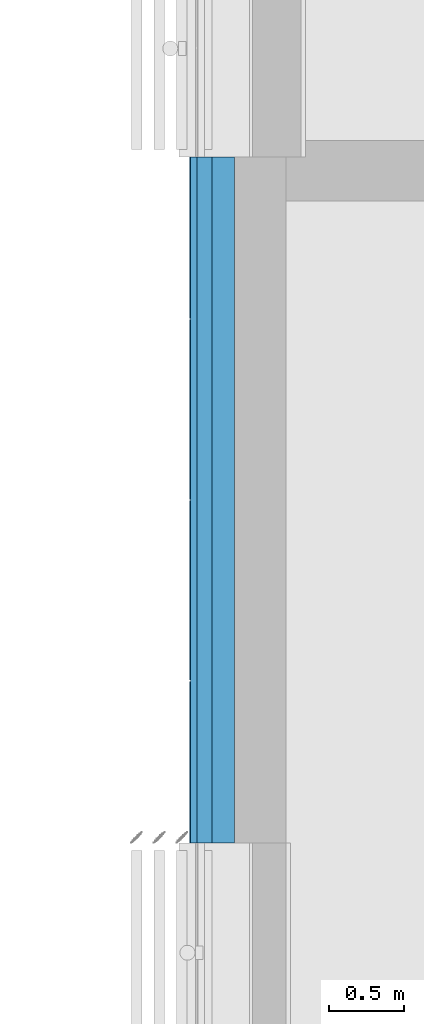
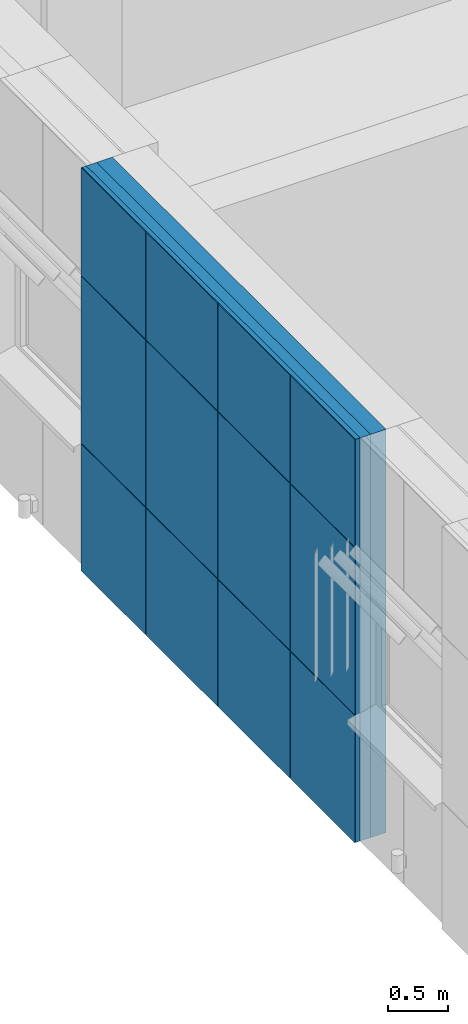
# One storey, part 128 of 418: 4 building element parts, 6 openings, 1 element without a shape of its own.
"""IFC2X3 building model written with IfcOpenShell, lengths in millimetres."""

from ifc_helpers import new_model, entity, si_unit, converted_unit, derived_unit, money_unit, direction, frame, origin_with_axes, origin_2d_with_axis, place, context, subcontext, project, spatial, polyline, rectangle, outline, extrude, boolean, faceted_brep, material, type_object, element, aggregate, save


model = new_model("IFC2X3")

# Units and contexts
model_context = context("Model", 3, precision=0.01, world=origin_with_axes(), true_north=direction((0.0, 1.0)))
body_context = subcontext(model_context, "Body", "Model", "MODEL_VIEW")
ifc_project = project(units=[si_unit("LENGTHUNIT", "METRE", prefix="MILLI"), si_unit("AREAUNIT", "SQUARE_METRE"), si_unit("VOLUMEUNIT", "CUBIC_METRE"), converted_unit("PLANEANGLEUNIT", "DEGREE", entity("IfcPlaneAngleMeasure", 0.0174532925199), si_unit("PLANEANGLEUNIT", "RADIAN"), dimensions=[0, 0, 0, 0, 0, 0, 0]), si_unit("SOLIDANGLEUNIT", "STERADIAN"), money_unit("EUR"), converted_unit("TIMEUNIT", "Year", entity("IfcTimeMeasure", 31556926.0), si_unit("TIMEUNIT", "SECOND"), dimensions=[0, 0, 1, 0, 0, 0, 0]), si_unit("MASSUNIT", "GRAM", prefix="KILO"), si_unit("THERMODYNAMICTEMPERATUREUNIT", "DEGREE_CELSIUS"), si_unit("LUMINOUSINTENSITYUNIT", "LUMEN"), si_unit("ENERGYUNIT", "JOULE", prefix="MEGA"), derived_unit("THERMALCONDUCTANCEUNIT", [(si_unit("POWERUNIT", "WATT"), 1), (si_unit("LENGTHUNIT", "METRE"), -1), (si_unit("THERMODYNAMICTEMPERATUREUNIT", "KELVIN"), -1)]), derived_unit("SPECIFICHEATCAPACITYUNIT", [(si_unit("ENERGYUNIT", "JOULE"), 1), (si_unit("MASSUNIT", "GRAM", prefix="KILO"), -1), (si_unit("THERMODYNAMICTEMPERATUREUNIT", "KELVIN"), -1)]), derived_unit("MASSDENSITYUNIT", [(si_unit("MASSUNIT", "GRAM", prefix="KILO"), 1), (si_unit("VOLUMEUNIT", "CUBIC_METRE"), -1)])], contexts=[model_context])

# Site, building, storey
site_placement = place(None, origin_with_axes())
site = spatial("IfcSite", under=ifc_project, at=site_placement, Name="Paldiski mnt 245/1, Tallinn, Harjumaa", CompositionType="COMPLEX")
building_placement = place(site_placement, origin_with_axes())
building = spatial("IfcBuilding", under=site, at=building_placement, Name="RKAS Hoone üldnimetus (kasutust iseloomustav) -> IFC Project Manager -> SOLIBRI", CompositionType="ELEMENT")
storey_placement = place(building_placement, origin_with_axes())
storey = spatial("IfcBuildingStorey", under=building, at=storey_placement, Name="Esimene korrus", CompositionType="ELEMENT", Elevation=0.0)

# Wall, openings, building element parts
wall_type = type_object("IfcWallType", Name="VS-03H_uued_kihid 300", PredefinedType="NOTDEFINED")
wall_placement = place(storey_placement, frame((-62730.0, 18129.8288003, 0.0), z_axis=(0.0, 0.0, 1.0), x_axis=(0.0, 1.0, 0.0)))
wall = element("IfcWall", 1, at=wall_placement, inside=storey, type_object=wall_type, Name="VS-03")
opening_1_placement = place(wall_placement, frame((4925.0, -1.06581410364e-10, 0.0), z_axis=(0.0, 0.0, 1.0), x_axis=(1.0, 0.0, 0.0)))
element("IfcOpeningElement", 2, at=opening_1_placement, cuts=wall, Name="Cembrit fassaadiplaadi vuuk", context=body_context, shape_type="SweptSolid", body=[
    extrude(outline(polyline([(-4.0, 0.0), (4.0, 0.0), (4.0, 4090.0), (-4.0, 4090.0), (-4.0, 0.0)])), frame((0.0, 292.0, 0.0), z_axis=(0.0, -1.0, 0.0), x_axis=(1.0, 0.0, 0.0)), (0.0, 0.0, -1.0), 308.0),
])
opening_2_placement = place(wall_placement, frame((3725.0, 0.0, 0.0), z_axis=(0.0, 0.0, 1.0), x_axis=(1.0, 0.0, 0.0)))
element("IfcOpeningElement", 3, at=opening_2_placement, cuts=wall, Name="Cembrit fassaadiplaadi vuuk", context=body_context, shape_type="SweptSolid", body=[
    extrude(outline(polyline([(-4.0, 0.0), (4.0, 0.0), (4.0, 4090.0), (-4.0, 4090.0), (-4.0, 0.0)])), frame((0.0, 292.0, 0.0), z_axis=(0.0, -1.0, 0.0), x_axis=(1.0, 0.0, 0.0)), (0.0, 0.0, -1.0), 308.0),
])
opening_3_placement = place(wall_placement, frame((2525.0, 0.0, 0.0), z_axis=(0.0, 0.0, 1.0), x_axis=(1.0, 0.0, 0.0)))
element("IfcOpeningElement", 4, at=opening_3_placement, cuts=wall, Name="Cembrit fassaadiplaadi vuuk", context=body_context, shape_type="SweptSolid", body=[
    extrude(outline(polyline([(-4.0, 0.0), (4.0, 0.0), (4.0, 4090.0), (-4.0, 4090.0), (-4.0, 0.0)])), frame((0.0, 292.0, 0.0), z_axis=(0.0, -1.0, 0.0), x_axis=(1.0, 0.0, 0.0)), (0.0, 0.0, -1.0), 308.0),
])
opening_4_placement = place(wall_placement, frame((3724.75113166, 0.0, 1290.0), z_axis=(0.0, 0.0, 1.0), x_axis=(1.0, 0.0, 0.0)))
element("IfcOpeningElement", 5, at=opening_4_placement, cuts=wall, Name="Cembrit fassaadiplaadi vuuk", context=body_context, shape_type="SweptSolid", body=[
    extrude(outline(polyline([(-2274.75113166, 0.0), (2274.75113166, 0.0), (2274.75113166, 8.0), (-2274.75113166, 8.0), (-2274.75113166, 0.0)])), frame((0.0, 292.0, 0.0), z_axis=(0.0, -1.0, 0.0), x_axis=(1.0, 0.0, 0.0)), (0.0, 0.0, -1.0), 308.0),
])
opening_5_placement = place(wall_placement, frame((3724.75113166, 0.0, 2990.0), z_axis=(0.0, 0.0, 1.0), x_axis=(1.0, 0.0, 0.0)))
element("IfcOpeningElement", 6, at=opening_5_placement, cuts=wall, Name="Cembrit fassaadiplaadi vuuk", context=body_context, shape_type="SweptSolid", body=[
    extrude(outline(polyline([(-2274.75113166, 0.0), (2274.75113166, 0.0), (2274.75113166, 8.0), (-2274.75113166, 8.0), (-2274.75113166, 0.0)])), frame((0.0, 292.0, 0.0), z_axis=(0.0, -1.0, 0.0), x_axis=(1.0, 0.0, 0.0)), (0.0, 0.0, -1.0), 308.0),
])
opening_6_placement = place(wall_placement, frame((-18129.8288003, -62730.0, 0.0), z_axis=(0.0, 0.0, 1.0), x_axis=(0.0, -1.0, 0.0)))
element("IfcOpeningElement", 7, at=opening_6_placement, cuts=wall, Name="AVA", ObjectType="OPENING", context=body_context, shape_type="SweptSolid", body=[
    extrude(rectangle(XDim=1450.0, YDim=4140.0001049, at=origin_2d_with_axis()), frame((-62730.0, 18854.8287244, 2019.99994755), z_axis=(1.0, 0.0, 0.0), x_axis=(0.0, 1.0, 0.0)), (0.0, 0.0, -1.0), 600.000000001),
])
ifc_material_1 = material(Name="Cembrit_C020")
building_element_part_1_placement = place(wall_placement, origin_with_axes())
building_element_part_1 = element("IfcBuildingElementPart", 8, at=building_element_part_1_placement, material=ifc_material_1, Name="Cembrit_C020", context=body_context, shape_type="CSG", body=[
    boolean("DIFFERENCE", boolean("DIFFERENCE", boolean("DIFFERENCE", boolean("DIFFERENCE", extrude(outline(polyline([(0.0, 292.0), (5999.50226332, 292.0), (5999.50226332, 300.0), (0.0, 300.0), (0.0, 292.0)])), origin_with_axes(), (0.0, 0.0, 1.0), 4090.0), faceted_brep([(672.519381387, 300.00961541, 170.0), (672.519381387, 300.00961541, 350.0), (769.48093199, 300.00961541, 350.0), (769.48093199, 300.00961541, 170.0), (675.434642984, 292.0, 170.0), (675.434642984, 292.0, 350.0), (766.565670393, 292.0, 350.0), (766.565670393, 292.0, 170.0)], [[[0, 1, 2, 3]], [[4, 5, 1, 0]], [[5, 6, 2, 1]], [[6, 7, 3, 2]], [[7, 4, 0, 3]], [[4, 7, 6, 5]]])), faceted_brep([(675.434642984, 292.0, 170.0), (675.434642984, 292.0, 350.0), (766.565670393, 292.0, 350.0), (766.565670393, 292.0, 170.0), (675.511669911, 291.788370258, 170.0), (675.511669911, 291.788370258, 350.0), (679.886103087, 284.211629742, 350.0), (685.509765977, 277.509609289, 350.0), (692.21178643, 271.885946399, 350.0), (699.788526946, 267.511513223, 350.0), (708.009772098, 264.519224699, 350.0), (716.625723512, 263.0, 350.0), (721.000156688, 263.0, 350.0), (725.374589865, 263.0, 350.0), (733.990541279, 264.519224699, 350.0), (742.21178643, 267.511513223, 350.0), (749.788526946, 271.885946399, 350.0), (756.490547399, 277.509609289, 350.0), (762.114210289, 284.211629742, 350.0), (766.488643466, 291.788370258, 350.0), (766.488643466, 291.788370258, 170.0), (762.114210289, 284.211629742, 170.0), (756.490547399, 277.509609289, 170.0), (749.788526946, 271.885946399, 170.0), (742.21178643, 267.511513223, 170.0), (733.990541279, 264.519224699, 170.0), (725.374589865, 263.0, 170.0), (721.000156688, 263.0, 170.0), (716.625723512, 263.0, 170.0), (708.009772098, 264.519224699, 170.0), (699.788526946, 267.511513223, 170.0), (692.21178643, 271.885946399, 170.0), (685.509765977, 277.509609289, 170.0), (679.886103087, 284.211629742, 170.0)], [[[0, 1, 2, 3]], [[1, 0, 4, 5]], [[2, 1, 5, 6, 7, 8, 9, 10, 11, 12, 13, 14, 15, 16, 17, 18, 19]], [[3, 2, 19, 20]], [[0, 3, 20, 21, 22, 23, 24, 25, 26, 27, 28, 29, 30, 31, 32, 33, 4]], [[4, 33, 6, 5]], [[33, 32, 7, 6]], [[32, 31, 8, 7]], [[31, 30, 9, 8]], [[30, 29, 10, 9]], [[29, 28, 11, 10]], [[28, 27, 12, 11]], [[27, 26, 13, 12]], [[26, 25, 14, 13]], [[25, 24, 15, 14]], [[24, 23, 16, 15]], [[23, 22, 17, 16]], [[22, 21, 18, 17]], [[21, 20, 19, 18]]])), faceted_brep([(676.000156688, 250.0, 200.0), (766.000156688, 250.0, 200.0), (766.000156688, 250.0, 320.0), (676.000156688, 250.0, 320.0), (676.000156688, 260.0, 200.0), (766.000156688, 260.0, 200.0), (766.000156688, 260.0, 320.0), (676.000156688, 260.0, 320.0)], [[[0, 1, 2, 3]], [[1, 0, 4, 5]], [[2, 1, 5, 6]], [[3, 2, 6, 7]], [[0, 3, 7, 4]], [[5, 4, 7, 6]]])), faceted_brep([(676.000156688, 250.0, 200.0), (676.000156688, 250.0, 320.0), (766.000156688, 250.0, 320.0), (766.000156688, 250.0, 200.0), (676.000156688, 210.0, 200.0), (676.000156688, 210.0, 320.0), (766.000156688, 210.0, 320.0), (766.000156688, 210.0, 200.0)], [[[0, 1, 2, 3]], [[1, 0, 4, 5]], [[2, 1, 5, 6]], [[3, 2, 6, 7]], [[0, 3, 7, 4]], [[7, 6, 5, 4]]])),
])
ifc_material_2 = material(Name="VKR-06_Õhkvahe")
building_element_part_2_placement = place(wall_placement, origin_with_axes())
building_element_part_2 = element("IfcBuildingElementPart", 9, at=building_element_part_2_placement, material=ifc_material_2, Name="VKR-06_Õhkvahe", context=body_context, shape_type="CSG", body=[
    boolean("DIFFERENCE", boolean("DIFFERENCE", boolean("DIFFERENCE", boolean("DIFFERENCE", extrude(outline(polyline([(0.0, 250.0), (5999.50226332, 250.0), (5999.50226332, 292.0), (0.0, 292.0), (0.0, 250.0)])), origin_with_axes(), (0.0, 0.0, 1.0), 4090.0), faceted_brep([(672.519381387, 300.00961541, 170.0), (672.519381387, 300.00961541, 350.0), (769.48093199, 300.00961541, 350.0), (769.48093199, 300.00961541, 170.0), (675.434642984, 292.0, 170.0), (675.434642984, 292.0, 350.0), (766.565670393, 292.0, 350.0), (766.565670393, 292.0, 170.0)], [[[0, 1, 2, 3]], [[4, 5, 1, 0]], [[5, 6, 2, 1]], [[6, 7, 3, 2]], [[7, 4, 0, 3]], [[4, 7, 6, 5]]])), faceted_brep([(675.434642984, 292.0, 170.0), (675.434642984, 292.0, 350.0), (766.565670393, 292.0, 350.0), (766.565670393, 292.0, 170.0), (675.511669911, 291.788370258, 170.0), (675.511669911, 291.788370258, 350.0), (679.886103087, 284.211629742, 350.0), (685.509765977, 277.509609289, 350.0), (692.21178643, 271.885946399, 350.0), (699.788526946, 267.511513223, 350.0), (708.009772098, 264.519224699, 350.0), (716.625723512, 263.0, 350.0), (721.000156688, 263.0, 350.0), (725.374589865, 263.0, 350.0), (733.990541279, 264.519224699, 350.0), (742.21178643, 267.511513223, 350.0), (749.788526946, 271.885946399, 350.0), (756.490547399, 277.509609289, 350.0), (762.114210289, 284.211629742, 350.0), (766.488643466, 291.788370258, 350.0), (766.488643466, 291.788370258, 170.0), (762.114210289, 284.211629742, 170.0), (756.490547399, 277.509609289, 170.0), (749.788526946, 271.885946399, 170.0), (742.21178643, 267.511513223, 170.0), (733.990541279, 264.519224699, 170.0), (725.374589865, 263.0, 170.0), (721.000156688, 263.0, 170.0), (716.625723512, 263.0, 170.0), (708.009772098, 264.519224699, 170.0), (699.788526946, 267.511513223, 170.0), (692.21178643, 271.885946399, 170.0), (685.509765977, 277.509609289, 170.0), (679.886103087, 284.211629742, 170.0)], [[[0, 1, 2, 3]], [[1, 0, 4, 5]], [[2, 1, 5, 6, 7, 8, 9, 10, 11, 12, 13, 14, 15, 16, 17, 18, 19]], [[3, 2, 19, 20]], [[0, 3, 20, 21, 22, 23, 24, 25, 26, 27, 28, 29, 30, 31, 32, 33, 4]], [[4, 33, 6, 5]], [[33, 32, 7, 6]], [[32, 31, 8, 7]], [[31, 30, 9, 8]], [[30, 29, 10, 9]], [[29, 28, 11, 10]], [[28, 27, 12, 11]], [[27, 26, 13, 12]], [[26, 25, 14, 13]], [[25, 24, 15, 14]], [[24, 23, 16, 15]], [[23, 22, 17, 16]], [[22, 21, 18, 17]], [[21, 20, 19, 18]]])), faceted_brep([(676.000156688, 250.0, 200.0), (766.000156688, 250.0, 200.0), (766.000156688, 250.0, 320.0), (676.000156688, 250.0, 320.0), (676.000156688, 260.0, 200.0), (766.000156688, 260.0, 200.0), (766.000156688, 260.0, 320.0), (676.000156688, 260.0, 320.0)], [[[0, 1, 2, 3]], [[1, 0, 4, 5]], [[2, 1, 5, 6]], [[3, 2, 6, 7]], [[0, 3, 7, 4]], [[5, 4, 7, 6]]])), faceted_brep([(676.000156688, 250.0, 200.0), (676.000156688, 250.0, 320.0), (766.000156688, 250.0, 320.0), (766.000156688, 250.0, 200.0), (676.000156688, 210.0, 200.0), (676.000156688, 210.0, 320.0), (766.000156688, 210.0, 320.0), (766.000156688, 210.0, 200.0)], [[[0, 1, 2, 3]], [[1, 0, 4, 5]], [[2, 1, 5, 6]], [[3, 2, 6, 7]], [[0, 3, 7, 4]], [[7, 6, 5, 4]]])),
])
ifc_material_3 = material(Name="Kingspan Kooltherm")
building_element_part_3_placement = place(wall_placement, origin_with_axes())
building_element_part_3 = element("IfcBuildingElementPart", 10, at=building_element_part_3_placement, material=ifc_material_3, Name="Kingspan Kooltherm", context=body_context, shape_type="CSG", body=[
    boolean("DIFFERENCE", boolean("DIFFERENCE", boolean("DIFFERENCE", boolean("DIFFERENCE", extrude(outline(polyline([(0.0, 150.0), (5999.50226332, 150.0), (5999.50226332, 250.0), (0.0, 250.0), (0.0, 150.0)])), origin_with_axes(), (0.0, 0.0, 1.0), 4090.0), faceted_brep([(672.519381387, 300.00961541, 170.0), (672.519381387, 300.00961541, 350.0), (769.48093199, 300.00961541, 350.0), (769.48093199, 300.00961541, 170.0), (675.434642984, 292.0, 170.0), (675.434642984, 292.0, 350.0), (766.565670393, 292.0, 350.0), (766.565670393, 292.0, 170.0)], [[[0, 1, 2, 3]], [[4, 5, 1, 0]], [[5, 6, 2, 1]], [[6, 7, 3, 2]], [[7, 4, 0, 3]], [[4, 7, 6, 5]]])), faceted_brep([(675.434642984, 292.0, 170.0), (675.434642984, 292.0, 350.0), (766.565670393, 292.0, 350.0), (766.565670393, 292.0, 170.0), (675.511669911, 291.788370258, 170.0), (675.511669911, 291.788370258, 350.0), (679.886103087, 284.211629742, 350.0), (685.509765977, 277.509609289, 350.0), (692.21178643, 271.885946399, 350.0), (699.788526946, 267.511513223, 350.0), (708.009772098, 264.519224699, 350.0), (716.625723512, 263.0, 350.0), (721.000156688, 263.0, 350.0), (725.374589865, 263.0, 350.0), (733.990541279, 264.519224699, 350.0), (742.21178643, 267.511513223, 350.0), (749.788526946, 271.885946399, 350.0), (756.490547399, 277.509609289, 350.0), (762.114210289, 284.211629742, 350.0), (766.488643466, 291.788370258, 350.0), (766.488643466, 291.788370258, 170.0), (762.114210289, 284.211629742, 170.0), (756.490547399, 277.509609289, 170.0), (749.788526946, 271.885946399, 170.0), (742.21178643, 267.511513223, 170.0), (733.990541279, 264.519224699, 170.0), (725.374589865, 263.0, 170.0), (721.000156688, 263.0, 170.0), (716.625723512, 263.0, 170.0), (708.009772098, 264.519224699, 170.0), (699.788526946, 267.511513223, 170.0), (692.21178643, 271.885946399, 170.0), (685.509765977, 277.509609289, 170.0), (679.886103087, 284.211629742, 170.0)], [[[0, 1, 2, 3]], [[1, 0, 4, 5]], [[2, 1, 5, 6, 7, 8, 9, 10, 11, 12, 13, 14, 15, 16, 17, 18, 19]], [[3, 2, 19, 20]], [[0, 3, 20, 21, 22, 23, 24, 25, 26, 27, 28, 29, 30, 31, 32, 33, 4]], [[4, 33, 6, 5]], [[33, 32, 7, 6]], [[32, 31, 8, 7]], [[31, 30, 9, 8]], [[30, 29, 10, 9]], [[29, 28, 11, 10]], [[28, 27, 12, 11]], [[27, 26, 13, 12]], [[26, 25, 14, 13]], [[25, 24, 15, 14]], [[24, 23, 16, 15]], [[23, 22, 17, 16]], [[22, 21, 18, 17]], [[21, 20, 19, 18]]])), faceted_brep([(676.000156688, 250.0, 200.0), (766.000156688, 250.0, 200.0), (766.000156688, 250.0, 320.0), (676.000156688, 250.0, 320.0), (676.000156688, 260.0, 200.0), (766.000156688, 260.0, 200.0), (766.000156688, 260.0, 320.0), (676.000156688, 260.0, 320.0)], [[[0, 1, 2, 3]], [[1, 0, 4, 5]], [[2, 1, 5, 6]], [[3, 2, 6, 7]], [[0, 3, 7, 4]], [[5, 4, 7, 6]]])), faceted_brep([(676.000156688, 250.0, 200.0), (676.000156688, 250.0, 320.0), (766.000156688, 250.0, 320.0), (766.000156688, 250.0, 200.0), (676.000156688, 210.0, 200.0), (676.000156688, 210.0, 320.0), (766.000156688, 210.0, 320.0), (766.000156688, 210.0, 200.0)], [[[0, 1, 2, 3]], [[1, 0, 4, 5]], [[2, 1, 5, 6]], [[3, 2, 6, 7]], [[0, 3, 7, 4]], [[7, 6, 5, 4]]])),
])
building_element_part_4_placement = place(wall_placement, origin_with_axes())
building_element_part_4 = element("IfcBuildingElementPart", 11, at=building_element_part_4_placement, material=ifc_material_3, Name="Kingspan Kooltherm", context=body_context, shape_type="CSG", body=[
    boolean("DIFFERENCE", boolean("DIFFERENCE", boolean("DIFFERENCE", boolean("DIFFERENCE", extrude(outline(polyline([(0.0, 0.0), (5999.50226332, 0.0), (5999.50226332, 150.0), (0.0, 150.0), (0.0, 0.0)])), origin_with_axes(), (0.0, 0.0, 1.0), 4090.0), faceted_brep([(672.519381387, 300.00961541, 170.0), (672.519381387, 300.00961541, 350.0), (769.48093199, 300.00961541, 350.0), (769.48093199, 300.00961541, 170.0), (675.434642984, 292.0, 170.0), (675.434642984, 292.0, 350.0), (766.565670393, 292.0, 350.0), (766.565670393, 292.0, 170.0)], [[[0, 1, 2, 3]], [[4, 5, 1, 0]], [[5, 6, 2, 1]], [[6, 7, 3, 2]], [[7, 4, 0, 3]], [[4, 7, 6, 5]]])), faceted_brep([(675.434642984, 292.0, 170.0), (675.434642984, 292.0, 350.0), (766.565670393, 292.0, 350.0), (766.565670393, 292.0, 170.0), (675.511669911, 291.788370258, 170.0), (675.511669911, 291.788370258, 350.0), (679.886103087, 284.211629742, 350.0), (685.509765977, 277.509609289, 350.0), (692.21178643, 271.885946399, 350.0), (699.788526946, 267.511513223, 350.0), (708.009772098, 264.519224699, 350.0), (716.625723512, 263.0, 350.0), (721.000156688, 263.0, 350.0), (725.374589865, 263.0, 350.0), (733.990541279, 264.519224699, 350.0), (742.21178643, 267.511513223, 350.0), (749.788526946, 271.885946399, 350.0), (756.490547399, 277.509609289, 350.0), (762.114210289, 284.211629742, 350.0), (766.488643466, 291.788370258, 350.0), (766.488643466, 291.788370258, 170.0), (762.114210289, 284.211629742, 170.0), (756.490547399, 277.509609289, 170.0), (749.788526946, 271.885946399, 170.0), (742.21178643, 267.511513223, 170.0), (733.990541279, 264.519224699, 170.0), (725.374589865, 263.0, 170.0), (721.000156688, 263.0, 170.0), (716.625723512, 263.0, 170.0), (708.009772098, 264.519224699, 170.0), (699.788526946, 267.511513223, 170.0), (692.21178643, 271.885946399, 170.0), (685.509765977, 277.509609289, 170.0), (679.886103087, 284.211629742, 170.0)], [[[0, 1, 2, 3]], [[1, 0, 4, 5]], [[2, 1, 5, 6, 7, 8, 9, 10, 11, 12, 13, 14, 15, 16, 17, 18, 19]], [[3, 2, 19, 20]], [[0, 3, 20, 21, 22, 23, 24, 25, 26, 27, 28, 29, 30, 31, 32, 33, 4]], [[4, 33, 6, 5]], [[33, 32, 7, 6]], [[32, 31, 8, 7]], [[31, 30, 9, 8]], [[30, 29, 10, 9]], [[29, 28, 11, 10]], [[28, 27, 12, 11]], [[27, 26, 13, 12]], [[26, 25, 14, 13]], [[25, 24, 15, 14]], [[24, 23, 16, 15]], [[23, 22, 17, 16]], [[22, 21, 18, 17]], [[21, 20, 19, 18]]])), faceted_brep([(676.000156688, 250.0, 200.0), (766.000156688, 250.0, 200.0), (766.000156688, 250.0, 320.0), (676.000156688, 250.0, 320.0), (676.000156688, 260.0, 200.0), (766.000156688, 260.0, 200.0), (766.000156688, 260.0, 320.0), (676.000156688, 260.0, 320.0)], [[[0, 1, 2, 3]], [[1, 0, 4, 5]], [[2, 1, 5, 6]], [[3, 2, 6, 7]], [[0, 3, 7, 4]], [[5, 4, 7, 6]]])), faceted_brep([(676.000156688, 250.0, 200.0), (676.000156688, 250.0, 320.0), (766.000156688, 250.0, 320.0), (766.000156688, 250.0, 200.0), (676.000156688, 210.0, 200.0), (676.000156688, 210.0, 320.0), (766.000156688, 210.0, 320.0), (766.000156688, 210.0, 200.0)], [[[0, 1, 2, 3]], [[1, 0, 4, 5]], [[2, 1, 5, 6]], [[3, 2, 6, 7]], [[0, 3, 7, 4]], [[7, 6, 5, 4]]])),
])
aggregate(wall, [building_element_part_1, building_element_part_2, building_element_part_3, building_element_part_4])

save(model, "model.ifc")
